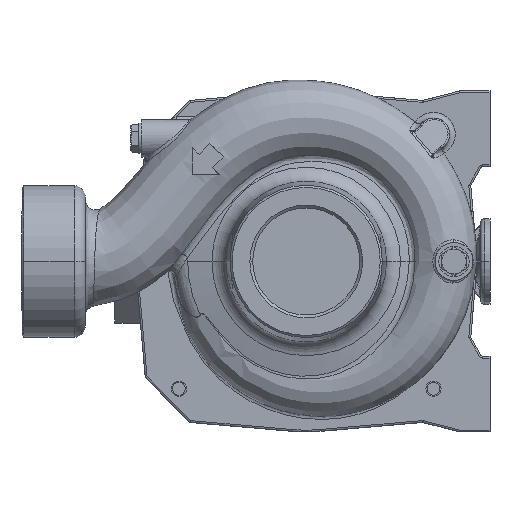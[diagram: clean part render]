
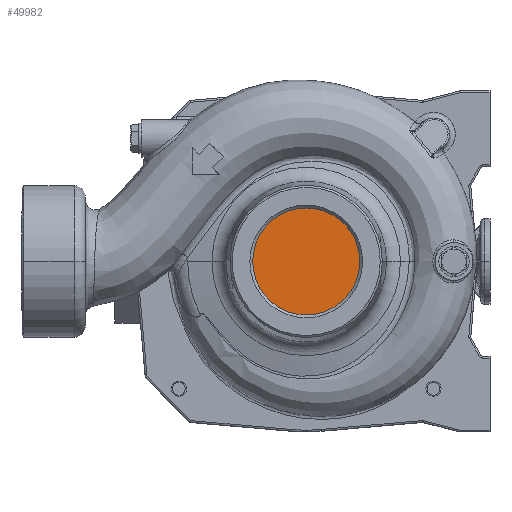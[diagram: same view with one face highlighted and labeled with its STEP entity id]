
A CAD part, left-side view. The second image highlights one B-rep face of the part: STEP entity #49982.
In plain terms, the highlighted planar face has unit normal (-1, 0, 0).
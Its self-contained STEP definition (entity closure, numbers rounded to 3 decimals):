
#33585=CARTESIAN_POINT('',(-23.,0.,0.));
#33586=DIRECTION('',(1.,0.,0.));
#33587=DIRECTION('',(0.,1.,0.));
#33588=AXIS2_PLACEMENT_3D('',#33585,#33586,#33587);
#33608=CARTESIAN_POINT('',(-23.,0.,0.));
#33609=DIRECTION('',(-1.,0.,0.));
#33610=DIRECTION('',(0.,1.,0.));
#33611=AXIS2_PLACEMENT_3D('',#33608,#33609,#33610);
#37205=CARTESIAN_POINT('',(-23.,28.25,0.));
#37206=VERTEX_POINT('',#37205);
#37207=CARTESIAN_POINT('',(-23.,-28.25,0.));
#37208=VERTEX_POINT('',#37207);
#49973=CARTESIAN_POINT('',(-23.,0.,0.));
#49974=DIRECTION('',(1.,0.,0.));
#49975=DIRECTION('',(0.,-1.,0.));
#49976=AXIS2_PLACEMENT_3D('',#49973,#49974,#49975);
#49977=PLANE('',#49976);
#49978=ORIENTED_EDGE('',*,*,#49967,.F.);
#49979=ORIENTED_EDGE('',*,*,#49953,.T.);
#49980=EDGE_LOOP('',(#49978,#49979));
#49981=FACE_OUTER_BOUND('',#49980,.F.);
#33589=CIRCLE('',#33588,28.25);
#33612=CIRCLE('',#33611,28.25);
#49953=EDGE_CURVE('',#37206,#37208,#33589,.T.);
#49967=EDGE_CURVE('',#37206,#37208,#33612,.T.);
#49982=ADVANCED_FACE('',(#49981),#49977,.F.);
